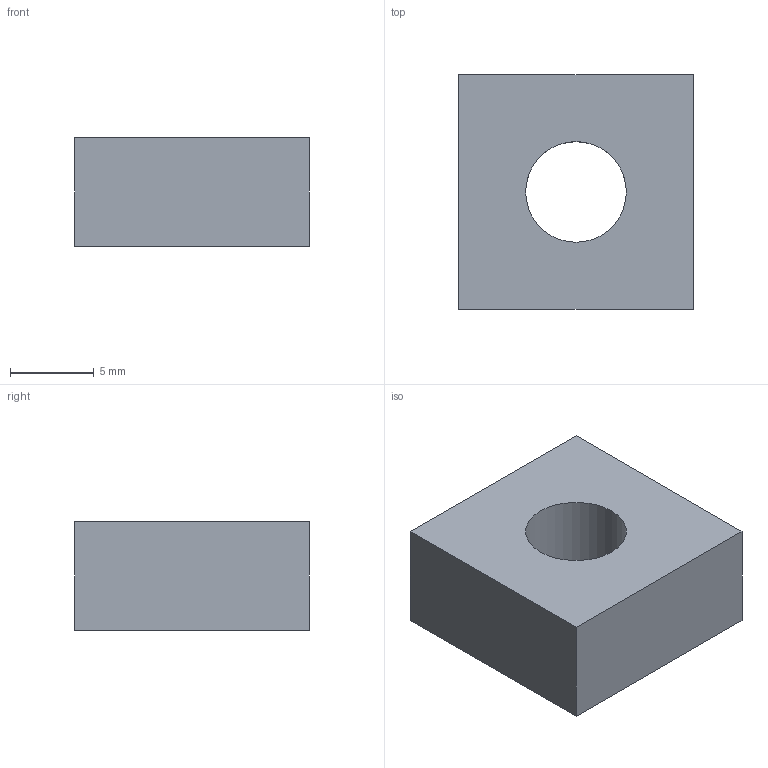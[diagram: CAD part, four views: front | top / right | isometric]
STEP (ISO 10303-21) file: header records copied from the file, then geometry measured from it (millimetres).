
FILE_DESCRIPTION( ( 'STEP AP203' ), '1' );
FILE_NAME( 'C:/NSM-08-6.stp', '2013-10-20T23:53:28', ( ' ' ), ( ' ' ), 'XStep 1.0', ' ', ' ' );
FILE_SCHEMA( ( 'CONFIG_CONTROL_DESIGN' ) );
Length unit declared in the file: metre
Products named in the file (1): 1
Bounding box: 14 x 14 x 6.5 mm (x, y, z)
Volume: 1088.7 mm3; surface area: 822.3 mm2
Topology: 1 solids, 1 shells, 7 faces, 15 edges, 10 vertices
Faces by surface type: bspline 7
Entity records: 243 total; most frequent: CARTESIAN_POINT 63, ORIENTED_EDGE 28, DIRECTION 18, EDGE_CURVE 14, LINE 12, VECTOR 12, EDGE_LOOP 10, VERTEX_POINT 10
